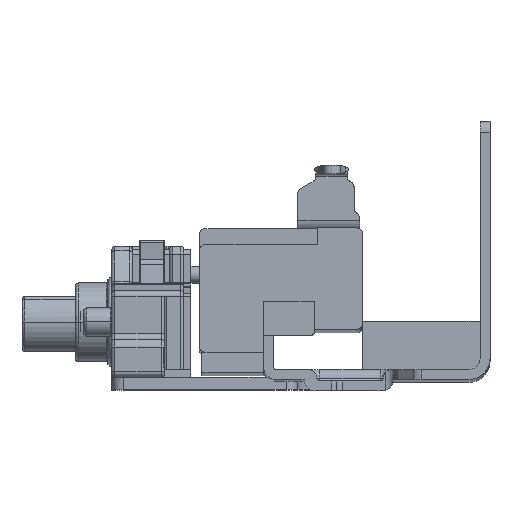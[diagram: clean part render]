
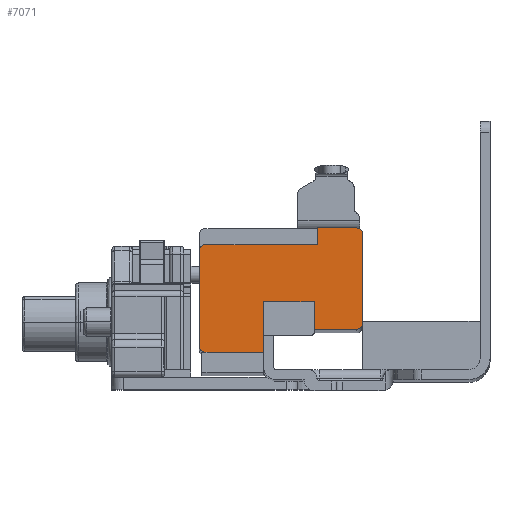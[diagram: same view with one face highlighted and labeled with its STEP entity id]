
A CAD part, top view. The second image highlights one B-rep face of the part: STEP entity #7071.
In plain terms, the highlighted planar face has unit normal (0, 0, 1).
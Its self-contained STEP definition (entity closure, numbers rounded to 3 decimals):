
#130 = LINE ( 'NONE', #9791, #10978 ) ;
#240 = CARTESIAN_POINT ( 'NONE',  ( -50.85, 4., -15.7 ) ) ;
#249 = ORIENTED_EDGE ( 'NONE', *, *, #10744, .F. ) ;
#514 = CARTESIAN_POINT ( 'NONE',  ( -70.91, 1., -15.7 ) ) ;
#666 = DIRECTION ( 'NONE',  ( -1., 0., 0. ) ) ;
#1442 = VECTOR ( 'NONE', #2583, 1000. ) ;
#1674 = ORIENTED_EDGE ( 'NONE', *, *, #12243, .T. ) ;
#1783 = CARTESIAN_POINT ( 'NONE',  ( -60.45, 0., -15.7 ) ) ;
#2043 = ORIENTED_EDGE ( 'NONE', *, *, #11726, .F. ) ;
#2065 = EDGE_CURVE ( 'NONE', #18248, #12941, #16165, .T. ) ;
#2583 = DIRECTION ( 'NONE',  ( -1., 0., 0. ) ) ;
#2752 = VERTEX_POINT ( 'NONE', #10319 ) ;
#2792 = VERTEX_POINT ( 'NONE', #12291 ) ;
#3313 = CARTESIAN_POINT ( 'NONE',  ( -50.85, 1., -15.7 ) ) ;
#3732 = CIRCLE ( 'NONE', #17944, 1. ) ;
#3962 = CARTESIAN_POINT ( 'NONE',  ( -71.88, 0.03, -15.7 ) ) ;
#3964 = AXIS2_PLACEMENT_3D ( 'NONE', #13784, #5304, #15216 ) ;
#3966 = EDGE_CURVE ( 'NONE', #9404, #15100, #4619, .T. ) ;
#4021 = CARTESIAN_POINT ( 'NONE',  ( -51.45, -9.185, -15.7 ) ) ;
#4170 = VECTOR ( 'NONE', #9956, 1000. ) ;
#4184 = FACE_OUTER_BOUND ( 'NONE', #13931, .T. ) ;
#4191 = EDGE_CURVE ( 'NONE', #5125, #12941, #5272, .T. ) ;
#4250 = VERTEX_POINT ( 'NONE', #11314 ) ;
#4356 = DIRECTION ( 'NONE',  ( 0., 1., 0. ) ) ;
#4550 = EDGE_CURVE ( 'NONE', #18325, #11148, #13323, .T. ) ;
#4618 = VECTOR ( 'NONE', #4809, 1000. ) ;
#4619 = LINE ( 'NONE', #11566, #4170 ) ;
#4715 = CARTESIAN_POINT ( 'NONE',  ( -43.85, 4., -15.7 ) ) ;
#4726 = VECTOR ( 'NONE', #17442, 1000. ) ;
#4809 = DIRECTION ( 'NONE',  ( 1., 0., 0. ) ) ;
#4828 = VECTOR ( 'NONE', #15819, 1000. ) ;
#4922 = CARTESIAN_POINT ( 'NONE',  ( -48.65, 4., -15.7 ) ) ;
#5052 = CARTESIAN_POINT ( 'NONE',  ( -71.88, -17.1, -15.7 ) ) ;
#5080 = CARTESIAN_POINT ( 'NONE',  ( -60.45, -9.185, -15.7 ) ) ;
#5125 = VERTEX_POINT ( 'NONE', #3962 ) ;
#5272 = LINE ( 'NONE', #17049, #4828 ) ;
#5304 = DIRECTION ( 'NONE',  ( 0., 0., -1. ) ) ;
#6262 = VECTOR ( 'NONE', #16289, 1000. ) ;
#6566 = DIRECTION ( 'NONE',  ( 0., 0., 1. ) ) ;
#6886 = DIRECTION ( 'NONE',  ( 0., 0., -1. ) ) ;
#7037 = ORIENTED_EDGE ( 'NONE', *, *, #11450, .F. ) ;
#7071 = ADVANCED_FACE ( 'NONE', ( #4184 ), #15023, .T. ) ;
#7103 = AXIS2_PLACEMENT_3D ( 'NONE', #13599, #6566, #16420 ) ;
#7422 = ORIENTED_EDGE ( 'NONE', *, *, #4550, .T. ) ;
#8224 = VECTOR ( 'NONE', #13392, 1000. ) ;
#8613 = CARTESIAN_POINT ( 'NONE',  ( -70.88, -18.1, -15.7 ) ) ;
#8923 = LINE ( 'NONE', #17087, #15544 ) ;
#8987 = LINE ( 'NONE', #13988, #1442 ) ;
#9153 = DIRECTION ( 'NONE',  ( 0., 0., -1. ) ) ;
#9234 = ORIENTED_EDGE ( 'NONE', *, *, #14153, .F. ) ;
#9404 = VERTEX_POINT ( 'NONE', #5080 ) ;
#9791 = CARTESIAN_POINT ( 'NONE',  ( -42.85, 0., -15.7 ) ) ;
#9956 = DIRECTION ( 'NONE',  ( 1., 0., 0. ) ) ;
#9973 = EDGE_CURVE ( 'NONE', #18325, #18267, #8923, .T. ) ;
#10147 = CIRCLE ( 'NONE', #3964, 1. ) ;
#10319 = CARTESIAN_POINT ( 'NONE',  ( -42.85, 3., -15.7 ) ) ;
#10628 = LINE ( 'NONE', #1783, #13948 ) ;
#10744 = EDGE_CURVE ( 'NONE', #18267, #16254, #16156, .T. ) ;
#10978 = VECTOR ( 'NONE', #12573, 1000. ) ;
#11148 = VERTEX_POINT ( 'NONE', #514 ) ;
#11314 = CARTESIAN_POINT ( 'NONE',  ( -51.45, -14., -15.7 ) ) ;
#11450 = EDGE_CURVE ( 'NONE', #9404, #13072, #10628, .T. ) ;
#11491 = DIRECTION ( 'NONE',  ( -1., 0., 0. ) ) ;
#11566 = CARTESIAN_POINT ( 'NONE',  ( -58.68, -9.185, -15.7 ) ) ;
#11624 = DIRECTION ( 'NONE',  ( 0., 0., -1. ) ) ;
#11648 = ORIENTED_EDGE ( 'NONE', *, *, #2065, .F. ) ;
#11657 = CARTESIAN_POINT ( 'NONE',  ( -70.88, -17.1, -15.7 ) ) ;
#11726 = EDGE_CURVE ( 'NONE', #16254, #2752, #3732, .T. ) ;
#11753 = ORIENTED_EDGE ( 'NONE', *, *, #12042, .F. ) ;
#12042 = EDGE_CURVE ( 'NONE', #2792, #14960, #10147, .T. ) ;
#12243 = EDGE_CURVE ( 'NONE', #18248, #13072, #14578, .T. ) ;
#12291 = CARTESIAN_POINT ( 'NONE',  ( -42.85, -13., -15.7 ) ) ;
#12573 = DIRECTION ( 'NONE',  ( 0., -1., 0. ) ) ;
#12650 = CARTESIAN_POINT ( 'NONE',  ( -60.45, -18.1, -15.7 ) ) ;
#12941 = VERTEX_POINT ( 'NONE', #5052 ) ;
#13072 = VERTEX_POINT ( 'NONE', #12650 ) ;
#13104 = DIRECTION ( 'NONE',  ( 0., -1., 0. ) ) ;
#13323 = LINE ( 'NONE', #14884, #6262 ) ;
#13381 = ORIENTED_EDGE ( 'NONE', *, *, #4191, .T. ) ;
#13392 = DIRECTION ( 'NONE',  ( 1., 0., 0. ) ) ;
#13442 = ORIENTED_EDGE ( 'NONE', *, *, #3966, .T. ) ;
#13599 = CARTESIAN_POINT ( 'NONE',  ( -40.3, 0., -15.7 ) ) ;
#13784 = CARTESIAN_POINT ( 'NONE',  ( -43.85, -13., -15.7 ) ) ;
#13931 = EDGE_LOOP ( 'NONE', ( #17063, #7422, #14712, #13381, #11648, #1674, #7037, #13442, #14940, #16829, #11753, #9234, #2043, #249 ) ) ;
#13948 = VECTOR ( 'NONE', #13104, 1000. ) ;
#13988 = CARTESIAN_POINT ( 'NONE',  ( -40.3, -14., -15.7 ) ) ;
#14153 = EDGE_CURVE ( 'NONE', #2752, #2792, #130, .T. ) ;
#14578 = LINE ( 'NONE', #14714, #4618 ) ;
#14582 = EDGE_CURVE ( 'NONE', #14960, #4250, #8987, .T. ) ;
#14609 = CARTESIAN_POINT ( 'NONE',  ( -51.45, -10.845, -15.7 ) ) ;
#14712 = ORIENTED_EDGE ( 'NONE', *, *, #15482, .F. ) ;
#14714 = CARTESIAN_POINT ( 'NONE',  ( -40.3, -18.1, -15.7 ) ) ;
#14730 = CARTESIAN_POINT ( 'NONE',  ( -43.85, -14., -15.7 ) ) ;
#14884 = CARTESIAN_POINT ( 'NONE',  ( -41.05, 1., -15.7 ) ) ;
#14904 = AXIS2_PLACEMENT_3D ( 'NONE', #17617, #9153, #666 ) ;
#14940 = ORIENTED_EDGE ( 'NONE', *, *, #16256, .F. ) ;
#14942 = CIRCLE ( 'NONE', #14904, 0.97 ) ;
#14960 = VERTEX_POINT ( 'NONE', #14730 ) ;
#15023 = PLANE ( 'NONE',  #7103 ) ;
#15100 = VERTEX_POINT ( 'NONE', #4021 ) ;
#15216 = DIRECTION ( 'NONE',  ( -1., 0., 0. ) ) ;
#15339 = CARTESIAN_POINT ( 'NONE',  ( -43.85, 3., -15.7 ) ) ;
#15482 = EDGE_CURVE ( 'NONE', #5125, #11148, #14942, .T. ) ;
#15544 = VECTOR ( 'NONE', #4356, 1000. ) ;
#15778 = AXIS2_PLACEMENT_3D ( 'NONE', #11657, #11624, #11491 ) ;
#15819 = DIRECTION ( 'NONE',  ( 0., -1., 0. ) ) ;
#16156 = LINE ( 'NONE', #4922, #8224 ) ;
#16165 = CIRCLE ( 'NONE', #15778, 1. ) ;
#16254 = VERTEX_POINT ( 'NONE', #4715 ) ;
#16256 = EDGE_CURVE ( 'NONE', #4250, #15100, #16441, .T. ) ;
#16289 = DIRECTION ( 'NONE',  ( -1., 0., 0. ) ) ;
#16420 = DIRECTION ( 'NONE',  ( -1., 0., 0. ) ) ;
#16441 = LINE ( 'NONE', #14609, #4726 ) ;
#16718 = DIRECTION ( 'NONE',  ( -1., 0., 0. ) ) ;
#16829 = ORIENTED_EDGE ( 'NONE', *, *, #14582, .F. ) ;
#17049 = CARTESIAN_POINT ( 'NONE',  ( -71.88, 0., -15.7 ) ) ;
#17063 = ORIENTED_EDGE ( 'NONE', *, *, #9973, .F. ) ;
#17087 = CARTESIAN_POINT ( 'NONE',  ( -50.85, 1., -15.7 ) ) ;
#17442 = DIRECTION ( 'NONE',  ( 0., 1., 0. ) ) ;
#17617 = CARTESIAN_POINT ( 'NONE',  ( -70.91, 0.03, -15.7 ) ) ;
#17944 = AXIS2_PLACEMENT_3D ( 'NONE', #15339, #6886, #16718 ) ;
#18248 = VERTEX_POINT ( 'NONE', #8613 ) ;
#18267 = VERTEX_POINT ( 'NONE', #240 ) ;
#18325 = VERTEX_POINT ( 'NONE', #3313 ) ;
